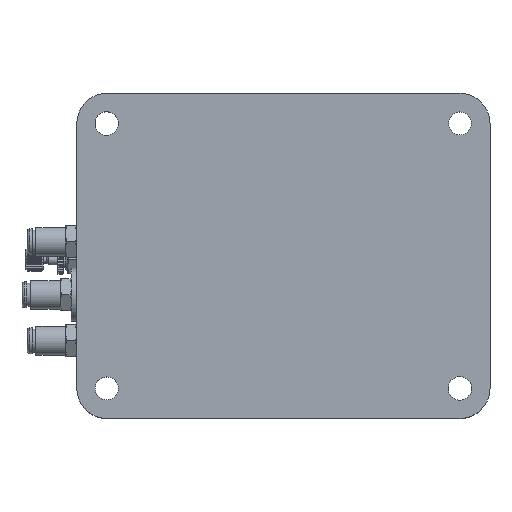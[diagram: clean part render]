
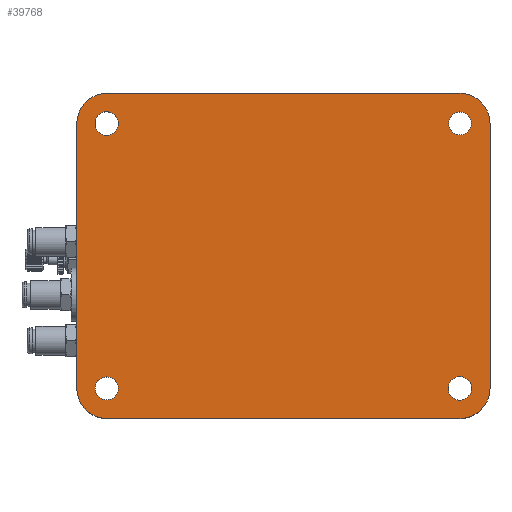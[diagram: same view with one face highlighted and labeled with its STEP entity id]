
A CAD part, top view. The second image highlights one B-rep face of the part: STEP entity #39768.
In plain terms, the highlighted planar face has unit normal (0, 0, 1).
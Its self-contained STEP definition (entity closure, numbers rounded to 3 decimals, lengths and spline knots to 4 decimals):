
#682=FACE_BOUND('',#4850,.T.);
#683=FACE_BOUND('',#4851,.T.);
#684=FACE_BOUND('',#4852,.T.);
#685=FACE_BOUND('',#4853,.T.);
#1091=PLANE('',#42124);
#2744=FACE_OUTER_BOUND('',#4849,.T.);
#4849=EDGE_LOOP('',(#28611,#28612,#28613,#28614,#28615,#28616,#28617,#28618));
#4850=EDGE_LOOP('',(#28619));
#4851=EDGE_LOOP('',(#28620));
#4852=EDGE_LOOP('',(#28621));
#4853=EDGE_LOOP('',(#28622));
#6894=CIRCLE('',#42125,0.3346);
#6895=CIRCLE('',#42126,0.3346);
#6896=CIRCLE('',#42127,0.3346);
#6897=CIRCLE('',#42128,0.3346);
#6898=CIRCLE('',#42129,0.128);
#6899=CIRCLE('',#42130,0.128);
#6900=CIRCLE('',#42131,0.1308);
#6901=CIRCLE('',#42132,0.1308);
#8752=LINE('',#58833,#13139);
#8753=LINE('',#58837,#13140);
#8754=LINE('',#58841,#13141);
#8755=LINE('',#58845,#13142);
#13139=VECTOR('',#47091,0.3937);
#13140=VECTOR('',#47094,0.3937);
#13141=VECTOR('',#47097,0.3937);
#13142=VECTOR('',#47100,0.3937);
#17609=VERTEX_POINT('',#58831);
#17610=VERTEX_POINT('',#58832);
#17611=VERTEX_POINT('',#58834);
#17612=VERTEX_POINT('',#58836);
#17613=VERTEX_POINT('',#58838);
#17614=VERTEX_POINT('',#58840);
#17615=VERTEX_POINT('',#58842);
#17616=VERTEX_POINT('',#58844);
#17617=VERTEX_POINT('',#58847);
#17618=VERTEX_POINT('',#58849);
#17619=VERTEX_POINT('',#58851);
#17620=VERTEX_POINT('',#58853);
#21791=EDGE_CURVE('',#17609,#17610,#8752,.T.);
#21792=EDGE_CURVE('',#17611,#17609,#6894,.T.);
#21793=EDGE_CURVE('',#17612,#17611,#8753,.T.);
#21794=EDGE_CURVE('',#17613,#17612,#6895,.T.);
#21795=EDGE_CURVE('',#17614,#17613,#8754,.T.);
#21796=EDGE_CURVE('',#17615,#17614,#6896,.T.);
#21797=EDGE_CURVE('',#17616,#17615,#8755,.T.);
#21798=EDGE_CURVE('',#17610,#17616,#6897,.T.);
#21799=EDGE_CURVE('',#17617,#17617,#6898,.T.);
#21800=EDGE_CURVE('',#17618,#17618,#6899,.T.);
#21801=EDGE_CURVE('',#17619,#17619,#6900,.T.);
#21802=EDGE_CURVE('',#17620,#17620,#6901,.T.);
#28611=ORIENTED_EDGE('',*,*,#21791,.F.);
#28612=ORIENTED_EDGE('',*,*,#21792,.F.);
#28613=ORIENTED_EDGE('',*,*,#21793,.F.);
#28614=ORIENTED_EDGE('',*,*,#21794,.F.);
#28615=ORIENTED_EDGE('',*,*,#21795,.F.);
#28616=ORIENTED_EDGE('',*,*,#21796,.F.);
#28617=ORIENTED_EDGE('',*,*,#21797,.F.);
#28618=ORIENTED_EDGE('',*,*,#21798,.F.);
#28619=ORIENTED_EDGE('',*,*,#21799,.F.);
#28620=ORIENTED_EDGE('',*,*,#21800,.F.);
#28621=ORIENTED_EDGE('',*,*,#21801,.T.);
#28622=ORIENTED_EDGE('',*,*,#21802,.T.);
#39768=ADVANCED_FACE('',(#2744,#682,#683,#684,#685),#1091,.F.);
#42124=AXIS2_PLACEMENT_3D('',#58830,#47089,#47090);
#42125=AXIS2_PLACEMENT_3D('',#58835,#47092,#47093);
#42126=AXIS2_PLACEMENT_3D('',#58839,#47095,#47096);
#42127=AXIS2_PLACEMENT_3D('',#58843,#47098,#47099);
#42128=AXIS2_PLACEMENT_3D('',#58846,#47101,#47102);
#42129=AXIS2_PLACEMENT_3D('',#58848,#47103,#47104);
#42130=AXIS2_PLACEMENT_3D('',#58850,#47105,#47106);
#42131=AXIS2_PLACEMENT_3D('',#58852,#47107,#47108);
#42132=AXIS2_PLACEMENT_3D('',#58854,#47109,#47110);
#47089=DIRECTION('center_axis',(0.,0.,
-1.));
#47090=DIRECTION('ref_axis',(1.,0.,0.));
#47091=DIRECTION('',(0.,1.,0.));
#47092=DIRECTION('center_axis',(0.,0.,
-1.));
#47093=DIRECTION('ref_axis',(0.,-1.,0.));
#47094=DIRECTION('',(-1.,0.,0.));
#47095=DIRECTION('center_axis',(0.,0.,
-1.));
#47096=DIRECTION('ref_axis',(1.,0.,0.));
#47097=DIRECTION('',(0.,-1.,0.));
#47098=DIRECTION('center_axis',(0.,0.,
-1.));
#47099=DIRECTION('ref_axis',(0.,1.,0.));
#47100=DIRECTION('',(1.,0.,0.));
#47101=DIRECTION('center_axis',(0.,0.,
-1.));
#47102=DIRECTION('ref_axis',(-1.,0.,0.));
#47103=DIRECTION('center_axis',(0.,0.,
1.));
#47104=DIRECTION('ref_axis',(-1.,0.,0.));
#47105=DIRECTION('center_axis',(0.,0.,
1.));
#47106=DIRECTION('ref_axis',(-1.,0.,0.));
#47107=DIRECTION('center_axis',(0.,0.,
-1.));
#47108=DIRECTION('ref_axis',(-1.,0.,0.));
#47109=DIRECTION('center_axis',(0.,0.,
-1.));
#47110=DIRECTION('ref_axis',(-1.,0.,0.));
#58830=CARTESIAN_POINT('Origin',(1.4471,-0.3543,0.4724));
#58831=CARTESIAN_POINT('',(-0.856,-1.8307,0.4724));
#58832=CARTESIAN_POINT('',(-0.856,1.122,0.4724));
#58833=CARTESIAN_POINT('',(-0.856,-1.8307,0.4724));
#58834=CARTESIAN_POINT('',(-0.5214,-2.1654,0.4724));
#58835=CARTESIAN_POINT('Origin',(-0.5214,-1.8307,0.4724));
#58836=CARTESIAN_POINT('',(3.4156,-2.1654,0.4724));
#58837=CARTESIAN_POINT('',(3.4156,-2.1654,0.4724));
#58838=CARTESIAN_POINT('',(3.7503,-1.8307,0.4724));
#58839=CARTESIAN_POINT('Origin',(3.4156,-1.8307,0.4724));
#58840=CARTESIAN_POINT('',(3.7503,1.122,0.4724));
#58841=CARTESIAN_POINT('',(3.7503,1.122,0.4724));
#58842=CARTESIAN_POINT('',(3.4156,1.4567,0.4724));
#58843=CARTESIAN_POINT('Origin',(3.4156,1.122,0.4724));
#58844=CARTESIAN_POINT('',(-0.5214,1.4567,0.4724));
#58845=CARTESIAN_POINT('',(-0.5214,1.4567,0.4724));
#58846=CARTESIAN_POINT('Origin',(-0.5214,1.122,0.4724));
#58847=CARTESIAN_POINT('',(3.5436,1.122,0.4724));
#58848=CARTESIAN_POINT('Origin',(3.4156,1.122,0.4724));
#58849=CARTESIAN_POINT('',(-0.3934,-1.8307,0.4724));
#58850=CARTESIAN_POINT('Origin',(-0.5214,-1.8307,0.4724));
#58851=CARTESIAN_POINT('',(3.5465,-1.8307,0.4724));
#58852=CARTESIAN_POINT('Origin',(3.4156,-1.8307,0.4724));
#58853=CARTESIAN_POINT('',(-0.3905,1.122,0.4724));
#58854=CARTESIAN_POINT('Origin',(-0.5214,1.122,0.4724));
